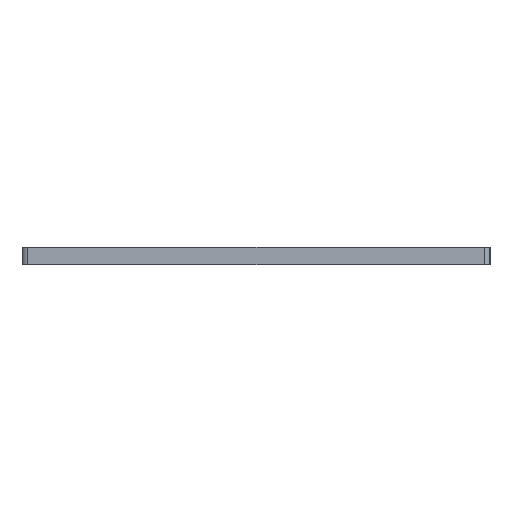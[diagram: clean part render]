
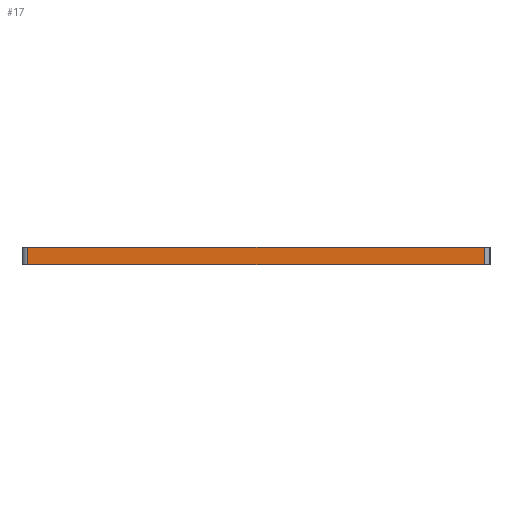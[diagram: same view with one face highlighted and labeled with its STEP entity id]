
A CAD part, left-side view. The second image highlights one B-rep face of the part: STEP entity #17.
In plain terms, the highlighted planar face has unit normal (-1, 0, 0).
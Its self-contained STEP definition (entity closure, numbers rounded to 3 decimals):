
#17 = ADVANCED_FACE('',(#18),#32,.T.);
#18 = FACE_BOUND('',#19,.T.);
#19 = EDGE_LOOP('',(#20,#55,#83,#111));
#20 = ORIENTED_EDGE('',*,*,#21,.T.);
#21 = EDGE_CURVE('',#22,#24,#26,.T.);
#22 = VERTEX_POINT('',#23);
#23 = CARTESIAN_POINT('',(-21.,-19.,0.));
#24 = VERTEX_POINT('',#25);
#25 = CARTESIAN_POINT('',(-21.,-19.,6.4));
#26 = SURFACE_CURVE('',#27,(#31,#43),.PCURVE_S1.);
#27 = LINE('',#28,#29);
#28 = CARTESIAN_POINT('',(-21.,-19.,0.));
#29 = VECTOR('',#30,1.);
#30 = DIRECTION('',(0.,0.,1.));
#31 = PCURVE('',#32,#37);
#32 = PLANE('',#33);
#33 = AXIS2_PLACEMENT_3D('',#34,#35,#36);
#34 = CARTESIAN_POINT('',(-21.,-19.,0.));
#35 = DIRECTION('',(-1.,0.,0.));
#36 = DIRECTION('',(0.,1.,0.));
#37 = DEFINITIONAL_REPRESENTATION('',(#38),#42);
#38 = LINE('',#39,#40);
#39 = CARTESIAN_POINT('',(0.,0.));
#40 = VECTOR('',#41,1.);
#41 = DIRECTION('',(0.,-1.));
#42 = ( GEOMETRIC_REPRESENTATION_CONTEXT(2) 
PARAMETRIC_REPRESENTATION_CONTEXT() REPRESENTATION_CONTEXT('2D SPACE',''
  ) );
#43 = PCURVE('',#44,#49);
#44 = CYLINDRICAL_SURFACE('',#45,2.);
#45 = AXIS2_PLACEMENT_3D('',#46,#47,#48);
#46 = CARTESIAN_POINT('',(-19.,-19.,0.));
#47 = DIRECTION('',(0.,0.,-1.));
#48 = DIRECTION('',(-1.,0.,0.));
#49 = DEFINITIONAL_REPRESENTATION('',(#50),#54);
#50 = LINE('',#51,#52);
#51 = CARTESIAN_POINT('',(6.283,0.));
#52 = VECTOR('',#53,1.);
#53 = DIRECTION('',(0.,-1.));
#54 = ( GEOMETRIC_REPRESENTATION_CONTEXT(2) 
PARAMETRIC_REPRESENTATION_CONTEXT() REPRESENTATION_CONTEXT('2D SPACE',''
  ) );
#55 = ORIENTED_EDGE('',*,*,#56,.T.);
#56 = EDGE_CURVE('',#24,#57,#59,.T.);
#57 = VERTEX_POINT('',#58);
#58 = CARTESIAN_POINT('',(-21.,145.,6.4));
#59 = SURFACE_CURVE('',#60,(#64,#71),.PCURVE_S1.);
#60 = LINE('',#61,#62);
#61 = CARTESIAN_POINT('',(-21.,63.,6.4));
#62 = VECTOR('',#63,1.);
#63 = DIRECTION('',(0.,1.,0.));
#64 = PCURVE('',#32,#65);
#65 = DEFINITIONAL_REPRESENTATION('',(#66),#70);
#66 = LINE('',#67,#68);
#67 = CARTESIAN_POINT('',(82.,-6.4));
#68 = VECTOR('',#69,1.);
#69 = DIRECTION('',(1.,0.));
#70 = ( GEOMETRIC_REPRESENTATION_CONTEXT(2) 
PARAMETRIC_REPRESENTATION_CONTEXT() REPRESENTATION_CONTEXT('2D SPACE',''
  ) );
#71 = PCURVE('',#72,#77);
#72 = PLANE('',#73);
#73 = AXIS2_PLACEMENT_3D('',#74,#75,#76);
#74 = CARTESIAN_POINT('',(84.,63.,6.4));
#75 = DIRECTION('',(0.,0.,1.));
#76 = DIRECTION('',(1.,0.,-0.));
#77 = DEFINITIONAL_REPRESENTATION('',(#78),#82);
#78 = LINE('',#79,#80);
#79 = CARTESIAN_POINT('',(-105.,0.));
#80 = VECTOR('',#81,1.);
#81 = DIRECTION('',(0.,1.));
#82 = ( GEOMETRIC_REPRESENTATION_CONTEXT(2) 
PARAMETRIC_REPRESENTATION_CONTEXT() REPRESENTATION_CONTEXT('2D SPACE',''
  ) );
#83 = ORIENTED_EDGE('',*,*,#84,.F.);
#84 = EDGE_CURVE('',#85,#57,#87,.T.);
#85 = VERTEX_POINT('',#86);
#86 = CARTESIAN_POINT('',(-21.,145.,0.));
#87 = SURFACE_CURVE('',#88,(#92,#99),.PCURVE_S1.);
#88 = LINE('',#89,#90);
#89 = CARTESIAN_POINT('',(-21.,145.,0.));
#90 = VECTOR('',#91,1.);
#91 = DIRECTION('',(0.,0.,1.));
#92 = PCURVE('',#32,#93);
#93 = DEFINITIONAL_REPRESENTATION('',(#94),#98);
#94 = LINE('',#95,#96);
#95 = CARTESIAN_POINT('',(164.,0.));
#96 = VECTOR('',#97,1.);
#97 = DIRECTION('',(0.,-1.));
#98 = ( GEOMETRIC_REPRESENTATION_CONTEXT(2) 
PARAMETRIC_REPRESENTATION_CONTEXT() REPRESENTATION_CONTEXT('2D SPACE',''
  ) );
#99 = PCURVE('',#100,#105);
#100 = CYLINDRICAL_SURFACE('',#101,2.);
#101 = AXIS2_PLACEMENT_3D('',#102,#103,#104);
#102 = CARTESIAN_POINT('',(-19.,145.,0.));
#103 = DIRECTION('',(0.,0.,-1.));
#104 = DIRECTION('',(-1.,0.,0.));
#105 = DEFINITIONAL_REPRESENTATION('',(#106),#110);
#106 = LINE('',#107,#108);
#107 = CARTESIAN_POINT('',(0.,0.));
#108 = VECTOR('',#109,1.);
#109 = DIRECTION('',(0.,-1.));
#110 = ( GEOMETRIC_REPRESENTATION_CONTEXT(2) 
PARAMETRIC_REPRESENTATION_CONTEXT() REPRESENTATION_CONTEXT('2D SPACE',''
  ) );
#111 = ORIENTED_EDGE('',*,*,#112,.F.);
#112 = EDGE_CURVE('',#22,#85,#113,.T.);
#113 = SURFACE_CURVE('',#114,(#118,#125),.PCURVE_S1.);
#114 = LINE('',#115,#116);
#115 = CARTESIAN_POINT('',(-21.,63.,0.));
#116 = VECTOR('',#117,1.);
#117 = DIRECTION('',(0.,1.,0.));
#118 = PCURVE('',#32,#119);
#119 = DEFINITIONAL_REPRESENTATION('',(#120),#124);
#120 = LINE('',#121,#122);
#121 = CARTESIAN_POINT('',(82.,0.));
#122 = VECTOR('',#123,1.);
#123 = DIRECTION('',(1.,0.));
#124 = ( GEOMETRIC_REPRESENTATION_CONTEXT(2) 
PARAMETRIC_REPRESENTATION_CONTEXT() REPRESENTATION_CONTEXT('2D SPACE',''
  ) );
#125 = PCURVE('',#126,#131);
#126 = PLANE('',#127);
#127 = AXIS2_PLACEMENT_3D('',#128,#129,#130);
#128 = CARTESIAN_POINT('',(84.,63.,0.));
#129 = DIRECTION('',(0.,0.,1.));
#130 = DIRECTION('',(1.,0.,-0.));
#131 = DEFINITIONAL_REPRESENTATION('',(#132),#136);
#132 = LINE('',#133,#134);
#133 = CARTESIAN_POINT('',(-105.,0.));
#134 = VECTOR('',#135,1.);
#135 = DIRECTION('',(0.,1.));
#136 = ( GEOMETRIC_REPRESENTATION_CONTEXT(2) 
PARAMETRIC_REPRESENTATION_CONTEXT() REPRESENTATION_CONTEXT('2D SPACE',''
  ) );
